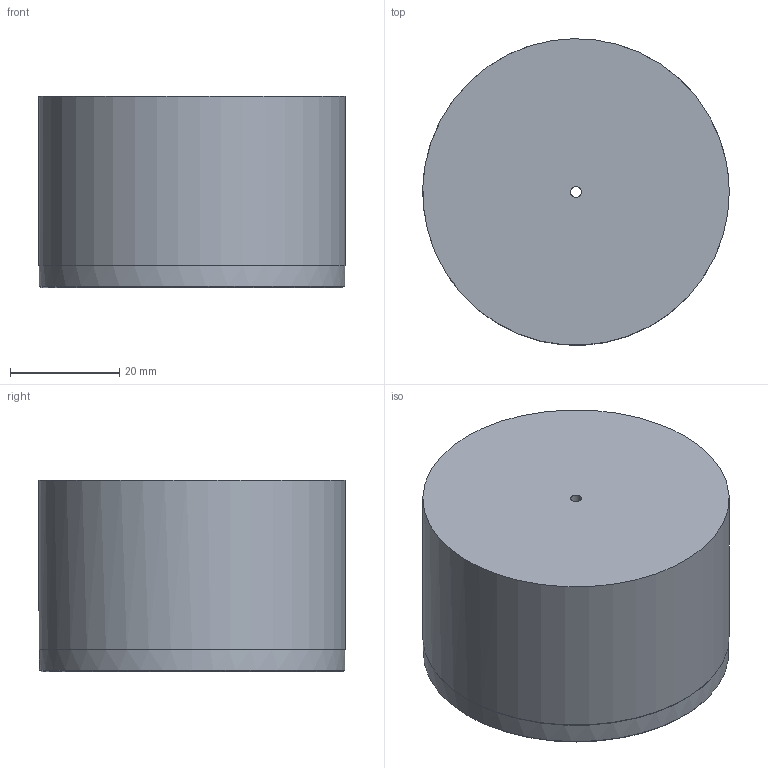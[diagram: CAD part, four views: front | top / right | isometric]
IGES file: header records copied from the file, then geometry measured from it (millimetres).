
Start section: C
Global section: file name: MSPBSC560835.igs; native system: By Siemens PLM Incorporated; preprocessor: XPlus GENERIC/IGES 18.0.17; author: Author; organization: Title; date: 20240726.163322; units: millimetre
Bounding box: 56 x 55.96 x 35 mm (x, y, z)
Volume: 41452.7 mm3; surface area: 14941 mm2
Topology: 1 solids, 1 shells, 284 faces, 738 edges, 492 vertices
Faces by surface type: bspline 284
